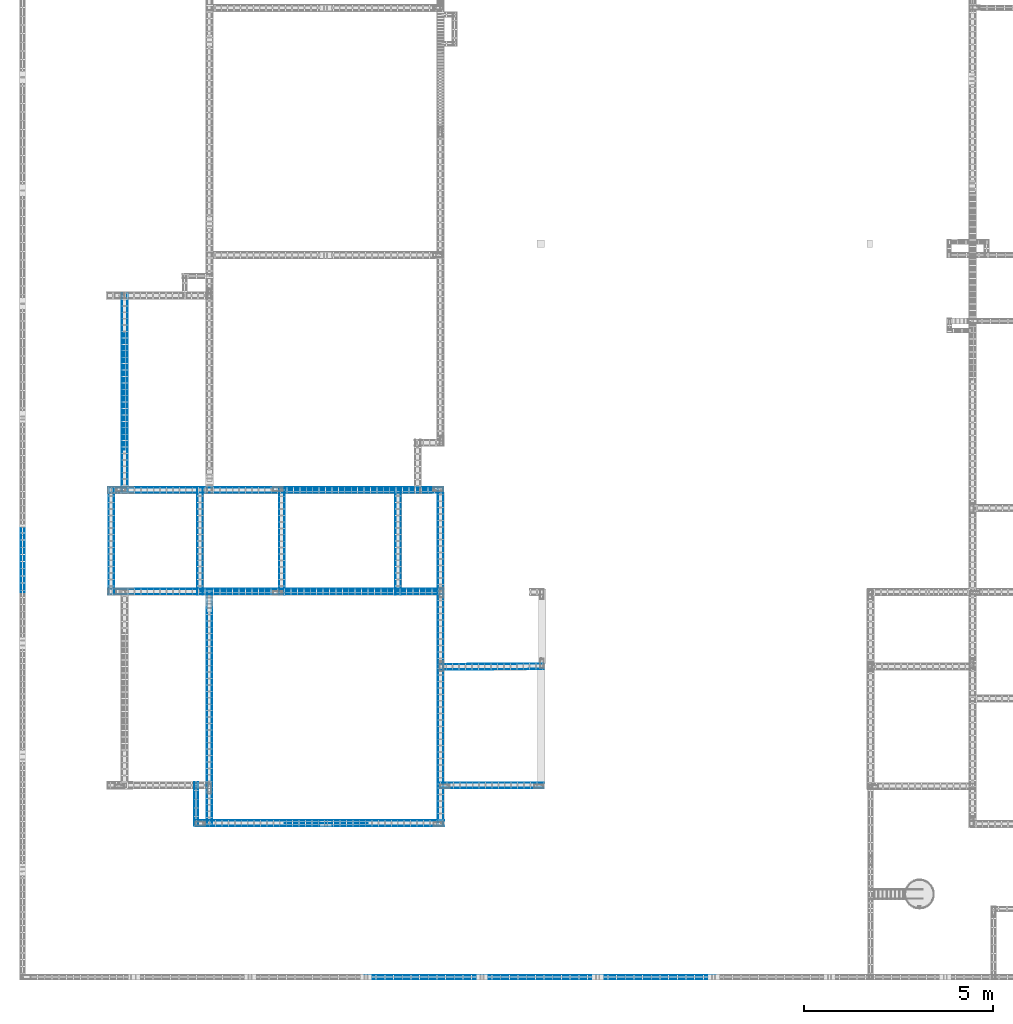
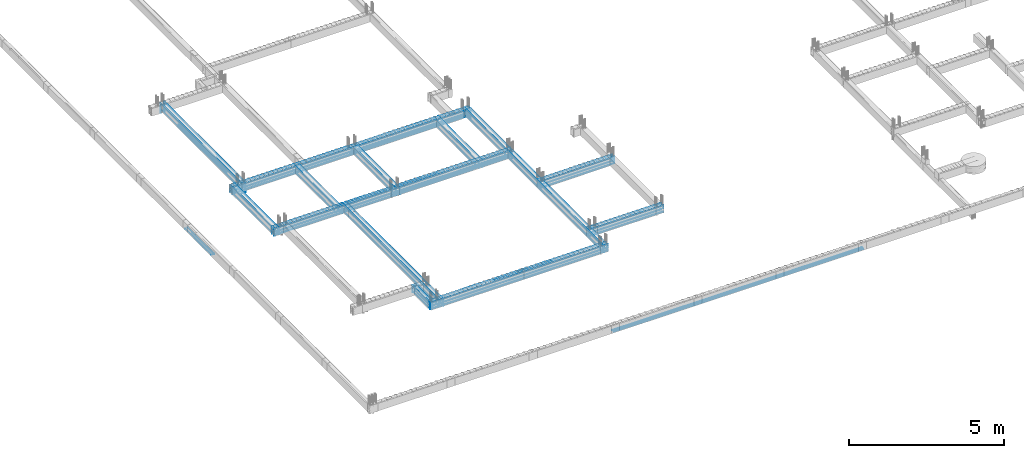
# One storey, part 7 of 150: 61 reinforcing bars.
"""IFC4 building model written with IfcOpenShell, lengths in centimetres."""

from ifc_helpers import new_model, entity, si_unit, derived_unit, frame, origin_with_axes, place, context, project, spatial, element, save


model = new_model("IFC4")

# Units and contexts
model_context = context("Model", 3, precision=1e-05, world=origin_with_axes(), identifier="Body")
ifc_project = project(units=[si_unit("LENGTHUNIT", "METRE", prefix="CENTI"), si_unit("VOLUMEUNIT", "CUBIC_METRE"), si_unit("AREAUNIT", "SQUARE_METRE"), si_unit("POWERUNIT", "WATT"), si_unit("LUMINOUSFLUXUNIT", "LUMEN"), si_unit("ELECTRICCURRENTUNIT", "AMPERE"), si_unit("PRESSUREUNIT", "PASCAL", prefix="KILO"), si_unit("MASSUNIT", "GRAM", prefix="KILO"), si_unit("PLANEANGLEUNIT", "RADIAN"), derived_unit("VOLUMETRICFLOWRATEUNIT", [(si_unit("LENGTHUNIT", "METRE"), 3), (si_unit("TIMEUNIT", "SECOND"), -1)])], contexts=[model_context])

# Site, building, storey
site_placement = place(None, frame((-4000.0, 0.0, 0.0), z_axis=(0.0, 0.0, 1.0), x_axis=(1.0, 0.0, 0.0)))
site = spatial("IfcSite", under=ifc_project, at=site_placement, Name="PADRÃO")
building_placement = place(site_placement, frame((0.0, 0.0, -14.0)))
building = spatial("IfcBuilding", under=site, at=building_placement, Name="CRECHE PRÉ-ESCOLA TIPO 2")
placement = place(building_placement, origin_with_axes())
storey_placement = place(placement, frame((0.0, 0.0, 30.0), z_axis=(0.0, 0.0, 1.0), x_axis=(1.0, 0.0, 0.0)))
storey = spatial("IfcBuildingStorey", under=building, at=storey_placement, Name="VIGA BALDRAME", CompositionType="ELEMENT", Elevation=16.0)

# Reinforcing bars
reinforcing_bar_1_placement = place(storey_placement, frame((901.362929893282, 1300.0, -11.875), z_axis=(0.0, 0.0, 1.0), x_axis=(1.0, 0.0, 0.0)))
element("IfcReinforcingBar", 1, at=reinforcing_bar_1_placement, inside=storey, Name="V136 - Longitudinal inferior", BarLength=0.0, CrossSectionArea=0.000122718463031, NominalDiameter=1.25, PredefinedType="MAIN", context=model_context, shape_type="AdvancedSweptSolid", body=[
    entity("IfcSweptDiskSolid", entity("IfcCompositeCurve", [entity("IfcCompositeCurveSegment", "CONTINUOUS", True, entity("IfcPolyline", [entity("IfcCartesianPoint", [-221.362929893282, 0.0, -15.0]), entity("IfcCartesianPoint", [220.732070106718, 0.0, -15.0])])), entity("IfcCompositeCurveSegment", "CONTINUOUS", True, entity("IfcPolyline", [entity("IfcCartesianPoint", [220.732070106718, 0.0, -15.0]), entity("IfcCartesianPoint", [220.732070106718, 0.0, 0.0])]))], False), 0.625),
])
for number, where, z_axis, x_axis, name in (
    (2, (679.205, 1293.125, -2.475), (0.0, 0.0, 1.0), (1.0, 0.0, 0.0), "V136 - Longitudinal inferior"),
    (3, (679.205, 1306.875, -2.475), (0.0, 0.0, 1.0), (1.0, 0.0, 0.0), "V136 - Longitudinal inferior"),
):
    element("IfcReinforcingBar", number, at=place(storey_placement, frame(where, z_axis=z_axis, x_axis=x_axis)), inside=storey, Name=name, BarLength=0.0, CrossSectionArea=0.000122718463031, NominalDiameter=1.25, PredefinedType="MAIN", context=model_context, shape_type="AdvancedSweptSolid", body=[
        entity("IfcSweptDiskSolid", entity("IfcCompositeCurve", [entity("IfcCompositeCurveSegment", "CONTINUOUS", True, entity("IfcPolyline", [entity("IfcCartesianPoint", [-442.89, 0.0, 0.0]), entity("IfcCartesianPoint", [-442.89, 0.0, -24.4])])), entity("IfcCompositeCurveSegment", "CONTINUOUS", True, entity("IfcPolyline", [entity("IfcCartesianPoint", [-442.89, 0.0, -24.4]), entity("IfcCartesianPoint", [442.89, 0.0, -24.4])])), entity("IfcCompositeCurveSegment", "CONTINUOUS", True, entity("IfcPolyline", [entity("IfcCartesianPoint", [442.89, 0.0, -24.4]), entity("IfcCartesianPoint", [442.89, 0.0, -9.4])]))], False), 0.625),
    ])
for number, where, z_axis, x_axis, name in (
    (4, (679.205, 1306.875, -2.49414021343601), (0.0, 0.0, 1.0), (1.0, 0.0, 0.0), "V136 - Longitudinal superior"),
    (5, (679.205, 1293.125, -2.49414021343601), (0.0, 0.0, 1.0), (1.0, 0.0, 0.0), "V136 - Longitudinal superior"),
):
    element("IfcReinforcingBar", number, at=place(storey_placement, frame(where, z_axis=z_axis, x_axis=x_axis)), inside=storey, Name=name, BarLength=0.0, CrossSectionArea=0.000122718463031, NominalDiameter=1.25, PredefinedType="MAIN", context=model_context, shape_type="AdvancedSweptSolid", body=[
        entity("IfcSweptDiskSolid", entity("IfcCompositeCurve", [entity("IfcCompositeCurveSegment", "CONTINUOUS", True, entity("IfcPolyline", [entity("IfcCartesianPoint", [-442.89, 0.0, -26.630859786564]), entity("IfcCartesianPoint", [-442.89, 0.0, -0.630859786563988])])), entity("IfcCompositeCurveSegment", "CONTINUOUS", True, entity("IfcPolyline", [entity("IfcCartesianPoint", [-442.89, 0.0, -0.630859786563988]), entity("IfcCartesianPoint", [442.89, 0.0, -0.630859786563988])])), entity("IfcCompositeCurveSegment", "CONTINUOUS", True, entity("IfcPolyline", [entity("IfcCartesianPoint", [442.89, 0.0, -0.630859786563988]), entity("IfcCartesianPoint", [442.89, 0.0, -41.194383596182])]))], False), 0.625),
    ])
reinforcing_bar_2_placement = place(storey_placement, frame((901.862929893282, 1031.0, -11.875), z_axis=(0.0, 0.0, 1.0), x_axis=(1.0, 0.0, 0.0)))
element("IfcReinforcingBar", 6, at=reinforcing_bar_2_placement, inside=storey, Name="V140 - Longitudinal inferior", BarLength=0.0, CrossSectionArea=0.000122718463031, NominalDiameter=1.25, PredefinedType="MAIN", context=model_context, shape_type="AdvancedSweptSolid", body=[
    entity("IfcSweptDiskSolid", entity("IfcCompositeCurve", [entity("IfcCompositeCurveSegment", "CONTINUOUS", True, entity("IfcPolyline", [entity("IfcCartesianPoint", [-221.862929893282, 0.0, -15.0]), entity("IfcCartesianPoint", [221.232070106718, 0.0, -15.0])])), entity("IfcCompositeCurveSegment", "CONTINUOUS", True, entity("IfcPolyline", [entity("IfcCartesianPoint", [221.232070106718, 0.0, -15.0]), entity("IfcCartesianPoint", [221.232070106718, 0.0, 0.0])]))], False), 0.625),
])
for number, where, z_axis, x_axis, name in (
    (7, (679.705, 1037.875, -2.475), (0.0, 0.0, 1.0), (1.0, 0.0, 0.0), "V140 - Longitudinal inferior"),
    (8, (679.705, 1024.125, -2.475), (0.0, 0.0, 1.0), (1.0, 0.0, 0.0), "V140 - Longitudinal inferior"),
):
    element("IfcReinforcingBar", number, at=place(storey_placement, frame(where, z_axis=z_axis, x_axis=x_axis)), inside=storey, Name=name, BarLength=0.0, CrossSectionArea=0.000122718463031, NominalDiameter=1.25, PredefinedType="MAIN", context=model_context, shape_type="AdvancedSweptSolid", body=[
        entity("IfcSweptDiskSolid", entity("IfcCompositeCurve", [entity("IfcCompositeCurveSegment", "CONTINUOUS", True, entity("IfcPolyline", [entity("IfcCartesianPoint", [-443.39, 0.0, 0.0]), entity("IfcCartesianPoint", [-443.39, 0.0, -24.4])])), entity("IfcCompositeCurveSegment", "CONTINUOUS", True, entity("IfcPolyline", [entity("IfcCartesianPoint", [-443.39, 0.0, -24.4]), entity("IfcCartesianPoint", [443.39, 0.0, -24.4])])), entity("IfcCompositeCurveSegment", "CONTINUOUS", True, entity("IfcPolyline", [entity("IfcCartesianPoint", [443.39, 0.0, -24.4]), entity("IfcCartesianPoint", [443.39, 0.0, -9.4])]))], False), 0.625),
    ])
reinforcing_bar_3_placement = place(storey_placement, frame((662.5, 1031.0, -2.5), z_axis=(0.0, 0.0, 1.0), x_axis=(1.0, 0.0, 0.0)))
element("IfcReinforcingBar", 9, at=reinforcing_bar_3_placement, inside=storey, Name="V140 - Longitudinal superior", BarLength=0.0, CrossSectionArea=0.000122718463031, NominalDiameter=1.25, PredefinedType="MAIN", context=model_context, shape_type="AdvancedSweptSolid", body=[
    entity("IfcSweptDiskSolid", entity("IfcCompositeCurve", [entity("IfcCompositeCurveSegment", "CONTINUOUS", True, entity("IfcPolyline", [entity("IfcCartesianPoint", [-182.5, 0.0, -0.625]), entity("IfcCartesianPoint", [182.5, 0.0, -0.625])]))], False), 0.625),
])
for number, where, z_axis, x_axis, name in (
    (10, (679.705, 1024.125, -2.49414021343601), (0.0, 0.0, 1.0), (1.0, 0.0, 0.0), "V140 - Longitudinal superior"),
    (11, (679.705, 1037.875, -2.49414021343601), (0.0, 0.0, 1.0), (1.0, 0.0, 0.0), "V140 - Longitudinal superior"),
):
    element("IfcReinforcingBar", number, at=place(storey_placement, frame(where, z_axis=z_axis, x_axis=x_axis)), inside=storey, Name=name, BarLength=0.0, CrossSectionArea=0.000122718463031, NominalDiameter=1.25, PredefinedType="MAIN", context=model_context, shape_type="AdvancedSweptSolid", body=[
        entity("IfcSweptDiskSolid", entity("IfcCompositeCurve", [entity("IfcCompositeCurveSegment", "CONTINUOUS", True, entity("IfcPolyline", [entity("IfcCartesianPoint", [-443.39, 0.0, -26.630859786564]), entity("IfcCartesianPoint", [-443.39, 0.0, -0.630859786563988])])), entity("IfcCompositeCurveSegment", "CONTINUOUS", True, entity("IfcPolyline", [entity("IfcCartesianPoint", [-443.39, 0.0, -0.630859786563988]), entity("IfcCartesianPoint", [443.39, 0.0, -0.630859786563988])])), entity("IfcCompositeCurveSegment", "CONTINUOUS", True, entity("IfcPolyline", [entity("IfcCartesianPoint", [443.39, 0.0, -0.630859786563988]), entity("IfcCartesianPoint", [443.39, 0.0, -30.9031584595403])]))], False), 0.625),
    ])
for number, where, z_axis, x_axis, name in (
    (12, (1251.82167784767, 825.130122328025, -26.7), (0.0, 0.0, 1.0), (1.0, 0.0, 0.0), "V145 - Longitudinal inferior"),
    (13, (1251.73832215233, 839.329877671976, -26.7), (0.0, 0.0, 1.0), (1.0, 0.0, 0.0), "V145 - Longitudinal inferior"),
):
    element("IfcReinforcingBar", number, at=place(storey_placement, frame(where, z_axis=z_axis, x_axis=x_axis)), inside=storey, Name=name, BarLength=0.0, CrossSectionArea=5.0265482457e-05, NominalDiameter=0.8, PredefinedType="MAIN", context=model_context, shape_type="AdvancedSweptSolid", body=[
        entity("IfcSweptDiskSolid", entity("IfcCompositeCurve", [entity("IfcCompositeCurveSegment", "CONTINUOUS", True, entity("IfcPolyline", [entity("IfcCartesianPoint", [-138.060034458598, -0.810442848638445, -0.4]), entity("IfcCartesianPoint", [138.060034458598, 0.810442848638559, -0.4])]))], False), 0.4),
    ])
for number, where, z_axis, x_axis, name in (
    (14, (1251.73832215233, 839.329877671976, -2.49624973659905), (0.0, 0.0, 1.0), (1.0, 0.0, 0.0), "V145 - Longitudinal superior"),
    (15, (1251.82167784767, 825.130122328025, -2.49624973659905), (0.0, 0.0, 1.0), (1.0, 0.0, 0.0), "V145 - Longitudinal superior"),
):
    element("IfcReinforcingBar", number, at=place(storey_placement, frame(where, z_axis=z_axis, x_axis=x_axis)), inside=storey, Name=name, BarLength=0.0, CrossSectionArea=5.0265482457e-05, NominalDiameter=0.8, PredefinedType="MAIN", context=model_context, shape_type="AdvancedSweptSolid", body=[
        entity("IfcSweptDiskSolid", entity("IfcCompositeCurve", [entity("IfcCompositeCurveSegment", "CONTINUOUS", True, entity("IfcPolyline", [entity("IfcCartesianPoint", [-137.660041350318, -0.808094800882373, -24.2941566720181]), entity("IfcCartesianPoint", [-137.660041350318, -0.808094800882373, -0.403750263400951])])), entity("IfcCompositeCurveSegment", "CONTINUOUS", True, entity("IfcPolyline", [entity("IfcCartesianPoint", [-137.660041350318, -0.808094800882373, -0.403750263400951]), entity("IfcCartesianPoint", [137.660041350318, 0.808094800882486, -0.403750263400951])])), entity("IfcCompositeCurveSegment", "CONTINUOUS", True, entity("IfcPolyline", [entity("IfcCartesianPoint", [137.660041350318, 0.808094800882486, -0.403750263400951]), entity("IfcCartesianPoint", [137.660041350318, 0.808094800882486, -24.2941566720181])]))], False), 0.4),
    ])
for number, where, z_axis, x_axis, name in (
    (16, (1252.28, 510.41, -26.7), (0.0, 0.0, 1.0), (1.0, 0.0, 0.0), "V150 - Longitudinal inferior"),
    (17, (1252.28, 524.61, -26.7), (0.0, 0.0, 1.0), (1.0, 0.0, 0.0), "V150 - Longitudinal inferior"),
):
    element("IfcReinforcingBar", number, at=place(storey_placement, frame(where, z_axis=z_axis, x_axis=x_axis)), inside=storey, Name=name, BarLength=0.0, CrossSectionArea=5.0265482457e-05, NominalDiameter=0.8, PredefinedType="MAIN", context=model_context, shape_type="AdvancedSweptSolid", body=[
        entity("IfcSweptDiskSolid", entity("IfcCompositeCurve", [entity("IfcCompositeCurveSegment", "CONTINUOUS", True, entity("IfcPolyline", [entity("IfcCartesianPoint", [-137.56, 0.0, -0.4]), entity("IfcCartesianPoint", [137.56, 0.0, -0.4])]))], False), 0.4),
    ])
for number, where, z_axis, x_axis, name in (
    (18, (1252.28, 510.41, -2.49624973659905), (0.0, 0.0, 1.0), (1.0, 0.0, 0.0), "V150 - Longitudinal superior"),
    (19, (1252.28, 524.61, -2.49624973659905), (0.0, 0.0, 1.0), (1.0, 0.0, 0.0), "V150 - Longitudinal superior"),
):
    element("IfcReinforcingBar", number, at=place(storey_placement, frame(where, z_axis=z_axis, x_axis=x_axis)), inside=storey, Name=name, BarLength=0.0, CrossSectionArea=5.0265482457e-05, NominalDiameter=0.8, PredefinedType="MAIN", context=model_context, shape_type="AdvancedSweptSolid", body=[
        entity("IfcSweptDiskSolid", entity("IfcCompositeCurve", [entity("IfcCompositeCurveSegment", "CONTINUOUS", True, entity("IfcPolyline", [entity("IfcCartesianPoint", [-137.16, 0.0, -10.403750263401]), entity("IfcCartesianPoint", [-137.16, 0.0, -0.403750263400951])])), entity("IfcCompositeCurveSegment", "CONTINUOUS", True, entity("IfcPolyline", [entity("IfcCartesianPoint", [-137.16, 0.0, -0.403750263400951]), entity("IfcCartesianPoint", [137.16, 0.0, -0.403750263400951])])), entity("IfcCompositeCurveSegment", "CONTINUOUS", True, entity("IfcPolyline", [entity("IfcCartesianPoint", [137.16, 0.0, -0.403750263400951]), entity("IfcCartesianPoint", [137.16, 0.0, -10.403750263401])]))], False), 0.4),
    ])
for number, where, z_axis, x_axis, name in (
    (20, (796.075000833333, 424.5, -26.5), (0.0, 0.0, 1.0), (1.0, 0.0, 0.0), "V154 - Longitudinal inferior"),
    (21, (796.075000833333, 410.5, -26.5), (0.0, 0.0, 1.0), (1.0, 0.0, 0.0), "V154 - Longitudinal inferior"),
):
    element("IfcReinforcingBar", number, at=place(storey_placement, frame(where, z_axis=z_axis, x_axis=x_axis)), inside=storey, Name=name, BarLength=0.0, CrossSectionArea=7.853981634e-05, NominalDiameter=1.0, PredefinedType="MAIN", context=model_context, shape_type="AdvancedSweptSolid", body=[
        entity("IfcSweptDiskSolid", entity("IfcCompositeCurve", [entity("IfcCompositeCurveSegment", "CONTINUOUS", True, entity("IfcPolyline", [entity("IfcCartesianPoint", [-329.075000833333, 0.0, -0.5]), entity("IfcCartesianPoint", [329.075000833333, 0.0, -0.5])]))], False), 0.5),
    ])
reinforcing_bar_4_placement = place(storey_placement, frame((813.220000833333, 417.5, -2.5), z_axis=(0.0, 0.0, 1.0), x_axis=(1.0, 0.0, 0.0)))
element("IfcReinforcingBar", 22, at=reinforcing_bar_4_placement, inside=storey, Name="V154 - Longitudinal superior", BarLength=0.0, CrossSectionArea=5.0265482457e-05, NominalDiameter=0.8, PredefinedType="MAIN", context=model_context, shape_type="AdvancedSweptSolid", body=[
    entity("IfcSweptDiskSolid", entity("IfcCompositeCurve", [entity("IfcCompositeCurveSegment", "CONTINUOUS", True, entity("IfcPolyline", [entity("IfcCartesianPoint", [-110.0, 0.0, -0.4]), entity("IfcCartesianPoint", [110.0, 0.0, -0.4])]))], False), 0.4),
])
for number, where, z_axis, x_axis, name in (
    (23, (796.075000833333, 424.6, -2.49624973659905), (0.0, 0.0, 1.0), (1.0, 0.0, 0.0), "V154 - Longitudinal superior"),
    (24, (796.075000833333, 410.4, -2.49624973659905), (0.0, 0.0, 1.0), (1.0, 0.0, 0.0), "V154 - Longitudinal superior"),
):
    element("IfcReinforcingBar", number, at=place(storey_placement, frame(where, z_axis=z_axis, x_axis=x_axis)), inside=storey, Name=name, BarLength=0.0, CrossSectionArea=5.0265482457e-05, NominalDiameter=0.8, PredefinedType="MAIN", context=model_context, shape_type="AdvancedSweptSolid", body=[
        entity("IfcSweptDiskSolid", entity("IfcCompositeCurve", [entity("IfcCompositeCurveSegment", "CONTINUOUS", True, entity("IfcPolyline", [entity("IfcCartesianPoint", [-328.675000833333, 0.0, -10.403750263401]), entity("IfcCartesianPoint", [-328.675000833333, 0.0, -0.403750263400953])])), entity("IfcCompositeCurveSegment", "CONTINUOUS", True, entity("IfcPolyline", [entity("IfcCartesianPoint", [-328.675000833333, 0.0, -0.403750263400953]), entity("IfcCartesianPoint", [328.675000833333, 0.0, -0.403750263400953])])), entity("IfcCompositeCurveSegment", "CONTINUOUS", True, entity("IfcPolyline", [entity("IfcCartesianPoint", [328.675000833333, 0.0, -0.403750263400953]), entity("IfcCartesianPoint", [328.675000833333, 0.0, -10.403750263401])]))], False), 0.4),
    ])
for number, where, z_axis, x_axis, name in (
    (25, (1379.0, 4.9, -26.7), (0.0, 0.0, 1.0), (1.0, 0.0, 0.0), "V158 - Longitudinal inferior"),
    (26, (1379.0, 14.1, -26.7), (0.0, 0.0, 1.0), (1.0, 0.0, 0.0), "V158 - Longitudinal inferior"),
):
    element("IfcReinforcingBar", number, at=place(storey_placement, frame(where, z_axis=z_axis, x_axis=x_axis)), inside=storey, Name=name, BarLength=0.0, CrossSectionArea=5.0265482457e-05, NominalDiameter=0.8, PredefinedType="MAIN", context=model_context, shape_type="AdvancedSweptSolid", body=[
        entity("IfcSweptDiskSolid", entity("IfcCompositeCurve", [entity("IfcCompositeCurveSegment", "CONTINUOUS", True, entity("IfcPolyline", [entity("IfcCartesianPoint", [-465.5, 0.0, -0.4]), entity("IfcCartesianPoint", [465.5, 0.0, -0.4])]))], False), 0.4),
    ])
for number, where, z_axis, x_axis, name in (
    (27, (4.4, 1114.5, -26.7), (0.0, 0.0, 1.0), (1.0, 0.0, 0.0), "V159 - Longitudinal inferior"),
    (28, (13.6, 1114.5, -26.7), (0.0, 0.0, 1.0), (1.0, 0.0, 0.0), "V159 - Longitudinal inferior"),
):
    element("IfcReinforcingBar", number, at=place(storey_placement, frame(where, z_axis=z_axis, x_axis=x_axis)), inside=storey, Name=name, BarLength=0.0, CrossSectionArea=5.0265482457e-05, NominalDiameter=0.8, PredefinedType="MAIN", context=model_context, shape_type="AdvancedSweptSolid", body=[
        entity("IfcSweptDiskSolid", entity("IfcCompositeCurve", [entity("IfcCompositeCurveSegment", "CONTINUOUS", True, entity("IfcPolyline", [entity("IfcCartesianPoint", [0.0, -85.0, -0.4]), entity("IfcCartesianPoint", [0.0, 85.0, -0.4])]))], False), 0.4),
    ])
for number, where, z_axis, x_axis, name in (
    (29, (250.79, 1165.5, -26.7), (0.0, 0.0, 1.0), (1.0, 0.0, 0.0), "V161 - Longitudinal inferior"),
    (30, (236.59, 1165.5, -26.7), (0.0, 0.0, 1.0), (1.0, 0.0, 0.0), "V161 - Longitudinal inferior"),
):
    element("IfcReinforcingBar", number, at=place(storey_placement, frame(where, z_axis=z_axis, x_axis=x_axis)), inside=storey, Name=name, BarLength=0.0, CrossSectionArea=5.0265482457e-05, NominalDiameter=0.8, PredefinedType="MAIN", context=model_context, shape_type="AdvancedSweptSolid", body=[
        entity("IfcSweptDiskSolid", entity("IfcCompositeCurve", [entity("IfcCompositeCurveSegment", "CONTINUOUS", True, entity("IfcPolyline", [entity("IfcCartesianPoint", [0.0, -142.5, -0.4]), entity("IfcCartesianPoint", [0.0, 142.5, -0.4])]))], False), 0.4),
    ])
for number, where, z_axis, x_axis, name in (
    (31, (236.59, 1165.5, -2.49624973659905), (0.0, 0.0, 1.0), (1.0, 0.0, 0.0), "V161 - Longitudinal superior"),
    (32, (250.79, 1165.5, -2.49624973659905), (0.0, 0.0, 1.0), (1.0, 0.0, 0.0), "V161 - Longitudinal superior"),
):
    element("IfcReinforcingBar", number, at=place(storey_placement, frame(where, z_axis=z_axis, x_axis=x_axis)), inside=storey, Name=name, BarLength=0.0, CrossSectionArea=5.0265482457e-05, NominalDiameter=0.8, PredefinedType="MAIN", context=model_context, shape_type="AdvancedSweptSolid", body=[
        entity("IfcSweptDiskSolid", entity("IfcCompositeCurve", [entity("IfcCompositeCurveSegment", "CONTINUOUS", True, entity("IfcPolyline", [entity("IfcCartesianPoint", [0.0, -142.1, -24.2941566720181]), entity("IfcCartesianPoint", [0.0, -142.1, -0.403750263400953])])), entity("IfcCompositeCurveSegment", "CONTINUOUS", True, entity("IfcPolyline", [entity("IfcCartesianPoint", [0.0, -142.1, -0.403750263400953]), entity("IfcCartesianPoint", [0.0, 142.1, -0.403750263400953])])), entity("IfcCompositeCurveSegment", "CONTINUOUS", True, entity("IfcPolyline", [entity("IfcCartesianPoint", [0.0, 142.1, -0.403750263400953]), entity("IfcCartesianPoint", [0.0, 142.1, -24.2941566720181])]))], False), 0.4),
    ])
for number, where, z_axis, x_axis, name in (
    (33, (272.125, 1559.0, -11.875), (0.0, 0.0, 1.0), (1.0, 0.0, 0.0), "V162 - Longitudinal inferior"),
    (34, (285.875, 1559.0, -11.875), (0.0, 0.0, 1.0), (1.0, 0.0, 0.0), "V162 - Longitudinal inferior"),
):
    element("IfcReinforcingBar", number, at=place(storey_placement, frame(where, z_axis=z_axis, x_axis=x_axis)), inside=storey, Name=name, BarLength=0.0, CrossSectionArea=0.000122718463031, NominalDiameter=1.25, PredefinedType="MAIN", context=model_context, shape_type="AdvancedSweptSolid", body=[
        entity("IfcSweptDiskSolid", entity("IfcCompositeCurve", [entity("IfcCompositeCurveSegment", "CONTINUOUS", True, entity("IfcPolyline", [entity("IfcCartesianPoint", [0.0, -261.875, 0.0]), entity("IfcCartesianPoint", [0.0, -261.875, -15.0])])), entity("IfcCompositeCurveSegment", "CONTINUOUS", True, entity("IfcPolyline", [entity("IfcCartesianPoint", [0.0, -261.875, -15.0]), entity("IfcCartesianPoint", [0.0, 261.875, -15.0])])), entity("IfcCompositeCurveSegment", "CONTINUOUS", True, entity("IfcPolyline", [entity("IfcCartesianPoint", [0.0, 261.875, -15.0]), entity("IfcCartesianPoint", [0.0, 261.875, 0.0])]))], False), 0.625),
    ])
reinforcing_bar_5_placement = place(storey_placement, frame((279.0, 1560.75, -26.25), z_axis=(0.0, 0.0, 1.0), x_axis=(1.0, 0.0, 0.0)))
element("IfcReinforcingBar", 35, at=reinforcing_bar_5_placement, inside=storey, Name="V162 - Longitudinal inferior", BarLength=0.0, CrossSectionArea=0.000122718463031, NominalDiameter=1.25, PredefinedType="MAIN", context=model_context, shape_type="AdvancedSweptSolid", body=[
    entity("IfcSweptDiskSolid", entity("IfcCompositeCurve", [entity("IfcCompositeCurveSegment", "CONTINUOUS", True, entity("IfcPolyline", [entity("IfcCartesianPoint", [0.0, -154.25, -0.625]), entity("IfcCartesianPoint", [0.0, 154.25, -0.625])]))], False), 0.625),
])
for number, where, z_axis, x_axis, name in (
    (36, (285.875, 1559.0, -2.49414021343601), (0.0, 0.0, 1.0), (1.0, 0.0, 0.0), "V162 - Longitudinal superior"),
    (37, (272.125, 1559.0, -2.49414021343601), (0.0, 0.0, 1.0), (1.0, 0.0, 0.0), "V162 - Longitudinal superior"),
):
    element("IfcReinforcingBar", number, at=place(storey_placement, frame(where, z_axis=z_axis, x_axis=x_axis)), inside=storey, Name=name, BarLength=0.0, CrossSectionArea=0.000122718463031, NominalDiameter=1.25, PredefinedType="MAIN", context=model_context, shape_type="AdvancedSweptSolid", body=[
        entity("IfcSweptDiskSolid", entity("IfcCompositeCurve", [entity("IfcCompositeCurveSegment", "CONTINUOUS", True, entity("IfcPolyline", [entity("IfcCartesianPoint", [0.0, -261.875, -37.6170199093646]), entity("IfcCartesianPoint", [0.0, -261.875, -0.630859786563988])])), entity("IfcCompositeCurveSegment", "CONTINUOUS", True, entity("IfcPolyline", [entity("IfcCartesianPoint", [0.0, -261.875, -0.630859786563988]), entity("IfcCartesianPoint", [0.0, 261.875, -0.630859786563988])])), entity("IfcCompositeCurveSegment", "CONTINUOUS", True, entity("IfcPolyline", [entity("IfcCartesianPoint", [0.0, 261.875, -0.630859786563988]), entity("IfcCartesianPoint", [0.0, 261.875, -37.797244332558])]))], False), 0.625),
    ])
for number, where, z_axis, x_axis, name in (
    (38, (496.695, 724.25, -11.5851398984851), (0.0, 0.0, 1.0), (1.0, 0.0, 0.0), "V166 - Longitudinal inferior"),
    (39, (510.445, 724.25, -11.5851398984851), (0.0, 0.0, 1.0), (1.0, 0.0, 0.0), "V166 - Longitudinal inferior"),
):
    element("IfcReinforcingBar", number, at=place(storey_placement, frame(where, z_axis=z_axis, x_axis=x_axis)), inside=storey, Name=name, BarLength=0.0, CrossSectionArea=0.000122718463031, NominalDiameter=1.25, PredefinedType="MAIN", context=model_context, shape_type="AdvancedSweptSolid", body=[
        entity("IfcSweptDiskSolid", entity("IfcCompositeCurve", [entity("IfcCompositeCurveSegment", "CONTINUOUS", True, entity("IfcPolyline", [entity("IfcCartesianPoint", [0.0, -314.125, 0.0]), entity("IfcCartesianPoint", [0.0, -314.125, -15.2898601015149])])), entity("IfcCompositeCurveSegment", "CONTINUOUS", True, entity("IfcPolyline", [entity("IfcCartesianPoint", [0.0, -314.125, -15.2898601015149]), entity("IfcCartesianPoint", [0.0, 314.125, -15.2898601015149])])), entity("IfcCompositeCurveSegment", "CONTINUOUS", True, entity("IfcPolyline", [entity("IfcCartesianPoint", [0.0, 314.125, -15.2898601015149]), entity("IfcCartesianPoint", [0.0, 314.125, 0.0])]))], False), 0.625),
    ])
for number, where, z_axis, x_axis, name in (
    (40, (496.695, 724.25, -2.49414021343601), (0.0, 0.0, 1.0), (1.0, 0.0, 0.0), "V166 - Longitudinal superior"),
    (41, (510.445, 724.25, -2.49414021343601), (0.0, 0.0, 1.0), (1.0, 0.0, 0.0), "V166 - Longitudinal superior"),
):
    element("IfcReinforcingBar", number, at=place(storey_placement, frame(where, z_axis=z_axis, x_axis=x_axis)), inside=storey, Name=name, BarLength=0.0, CrossSectionArea=0.000122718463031, NominalDiameter=1.25, PredefinedType="MAIN", context=model_context, shape_type="AdvancedSweptSolid", body=[
        entity("IfcSweptDiskSolid", entity("IfcCompositeCurve", [entity("IfcCompositeCurveSegment", "CONTINUOUS", True, entity("IfcPolyline", [entity("IfcCartesianPoint", [0.0, -314.125, -26.630859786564]), entity("IfcCartesianPoint", [0.0, -314.125, -0.630859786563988])])), entity("IfcCompositeCurveSegment", "CONTINUOUS", True, entity("IfcPolyline", [entity("IfcCartesianPoint", [0.0, -314.125, -0.630859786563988]), entity("IfcCartesianPoint", [0.0, 314.125, -0.630859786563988])])), entity("IfcCompositeCurveSegment", "CONTINUOUS", True, entity("IfcPolyline", [entity("IfcCartesianPoint", [0.0, 314.125, -0.630859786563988]), entity("IfcCartesianPoint", [0.0, 314.125, -26.630859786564])]))], False), 0.625),
    ])
for number, where, z_axis, x_axis, name in (
    (42, (473.09, 468.25, -26.7), (0.0, 0.0, 1.0), (1.0, 0.0, 0.0), "V167 - Longitudinal inferior"),
    (43, (463.89, 468.25, -26.7), (0.0, 0.0, 1.0), (1.0, 0.0, 0.0), "V167 - Longitudinal inferior"),
):
    element("IfcReinforcingBar", number, at=place(storey_placement, frame(where, z_axis=z_axis, x_axis=x_axis)), inside=storey, Name=name, BarLength=0.0, CrossSectionArea=5.0265482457e-05, NominalDiameter=0.8, PredefinedType="MAIN", context=model_context, shape_type="AdvancedSweptSolid", body=[
        entity("IfcSweptDiskSolid", entity("IfcCompositeCurve", [entity("IfcCompositeCurveSegment", "CONTINUOUS", True, entity("IfcPolyline", [entity("IfcCartesianPoint", [0.0, -57.25, -0.4]), entity("IfcCartesianPoint", [0.0, 57.25, -0.4])]))], False), 0.4),
    ])
for number, where, z_axis, x_axis, name in (
    (44, (463.89, 468.25, -2.49624973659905), (0.0, 0.0, 1.0), (1.0, 0.0, 0.0), "V167 - Longitudinal superior"),
    (45, (473.09, 468.25, -2.49624973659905), (0.0, 0.0, 1.0), (1.0, 0.0, 0.0), "V167 - Longitudinal superior"),
):
    element("IfcReinforcingBar", number, at=place(storey_placement, frame(where, z_axis=z_axis, x_axis=x_axis)), inside=storey, Name=name, BarLength=0.0, CrossSectionArea=5.0265482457e-05, NominalDiameter=0.8, PredefinedType="MAIN", context=model_context, shape_type="AdvancedSweptSolid", body=[
        entity("IfcSweptDiskSolid", entity("IfcCompositeCurve", [entity("IfcCompositeCurveSegment", "CONTINUOUS", True, entity("IfcPolyline", [entity("IfcCartesianPoint", [0.0, -56.85, -18.3215550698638]), entity("IfcCartesianPoint", [0.0, -56.85, -0.403750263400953])])), entity("IfcCompositeCurveSegment", "CONTINUOUS", True, entity("IfcPolyline", [entity("IfcCartesianPoint", [0.0, -56.85, -0.403750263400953]), entity("IfcCartesianPoint", [0.0, 56.85, -0.403750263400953])])), entity("IfcCompositeCurveSegment", "CONTINUOUS", True, entity("IfcPolyline", [entity("IfcCartesianPoint", [0.0, 56.85, -0.403750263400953]), entity("IfcCartesianPoint", [0.0, 56.85, -26.403750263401])]))], False), 0.4),
    ])
for number, where, z_axis, x_axis, name in (
    (46, (471.44, 1165.5, -2.5), (0.0, 0.0, 1.0), (1.0, 0.0, 0.0), "V168 - Longitudinal construtiva"),
    (47, (485.94, 1165.5, -2.5), (0.0, 0.0, 1.0), (1.0, 0.0, 0.0), "V168 - Longitudinal construtiva"),
):
    element("IfcReinforcingBar", number, at=place(storey_placement, frame(where, z_axis=z_axis, x_axis=x_axis)), inside=storey, Name=name, BarLength=0.0, CrossSectionArea=1.9634954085e-05, NominalDiameter=0.5, PredefinedType="MAIN", context=model_context, shape_type="AdvancedSweptSolid", body=[
        entity("IfcSweptDiskSolid", entity("IfcCompositeCurve", [entity("IfcCompositeCurveSegment", "CONTINUOUS", True, entity("IfcPolyline", [entity("IfcCartesianPoint", [0.0, -142.5, -0.25]), entity("IfcCartesianPoint", [0.0, 142.5, -0.25])]))], False), 0.25),
    ])
for number, where, z_axis, x_axis, name in (
    (48, (471.69, 1165.5, -26.5), (0.0, 0.0, 1.0), (1.0, 0.0, 0.0), "V168 - Longitudinal inferior"),
    (49, (485.69, 1165.5, -26.5), (0.0, 0.0, 1.0), (1.0, 0.0, 0.0), "V168 - Longitudinal inferior"),
):
    element("IfcReinforcingBar", number, at=place(storey_placement, frame(where, z_axis=z_axis, x_axis=x_axis)), inside=storey, Name=name, BarLength=0.0, CrossSectionArea=7.853981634e-05, NominalDiameter=1.0, PredefinedType="MAIN", context=model_context, shape_type="AdvancedSweptSolid", body=[
        entity("IfcSweptDiskSolid", entity("IfcCompositeCurve", [entity("IfcCompositeCurveSegment", "CONTINUOUS", True, entity("IfcPolyline", [entity("IfcCartesianPoint", [0.0, -142.5, -0.5]), entity("IfcCartesianPoint", [0.0, 142.5, -0.5])]))], False), 0.5),
    ])
for number, where, z_axis, x_axis, name in (
    (50, (688.5, 1165.005, -26.5), (0.0, 0.0, 1.0), (1.0, 0.0, 0.0), "V175 - Longitudinal inferior"),
    (51, (702.5, 1165.005, -26.5), (0.0, 0.0, 1.0), (1.0, 0.0, 0.0), "V175 - Longitudinal inferior"),
):
    element("IfcReinforcingBar", number, at=place(storey_placement, frame(where, z_axis=z_axis, x_axis=x_axis)), inside=storey, Name=name, BarLength=0.0, CrossSectionArea=7.853981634e-05, NominalDiameter=1.0, PredefinedType="MAIN", context=model_context, shape_type="AdvancedSweptSolid", body=[
        entity("IfcSweptDiskSolid", entity("IfcCompositeCurve", [entity("IfcCompositeCurveSegment", "CONTINUOUS", True, entity("IfcPolyline", [entity("IfcCartesianPoint", [0.0, -142.495, -0.5]), entity("IfcCartesianPoint", [0.0, 142.495, -0.5])]))], False), 0.5),
    ])
for number, where, z_axis, x_axis, name in (
    (52, (702.6, 1165.005, -2.49624973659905), (0.0, 0.0, 1.0), (1.0, 0.0, 0.0), "V175 - Longitudinal superior"),
    (53, (688.4, 1165.005, -2.49624973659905), (0.0, 0.0, 1.0), (1.0, 0.0, 0.0), "V175 - Longitudinal superior"),
):
    element("IfcReinforcingBar", number, at=place(storey_placement, frame(where, z_axis=z_axis, x_axis=x_axis)), inside=storey, Name=name, BarLength=0.0, CrossSectionArea=5.0265482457e-05, NominalDiameter=0.8, PredefinedType="MAIN", context=model_context, shape_type="AdvancedSweptSolid", body=[
        entity("IfcSweptDiskSolid", entity("IfcCompositeCurve", [entity("IfcCompositeCurveSegment", "CONTINUOUS", True, entity("IfcPolyline", [entity("IfcCartesianPoint", [0.0, -142.095, -24.2941566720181]), entity("IfcCartesianPoint", [0.0, -142.095, -0.403750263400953])])), entity("IfcCompositeCurveSegment", "CONTINUOUS", True, entity("IfcPolyline", [entity("IfcCartesianPoint", [0.0, -142.095, -0.403750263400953]), entity("IfcCartesianPoint", [0.0, 142.095, -0.403750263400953])])), entity("IfcCompositeCurveSegment", "CONTINUOUS", True, entity("IfcPolyline", [entity("IfcCartesianPoint", [0.0, 142.095, -0.403750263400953]), entity("IfcCartesianPoint", [0.0, 142.095, -24.2941566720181])]))], False), 0.4),
    ])
for number, where, z_axis, x_axis, name in (
    (54, (1010.7, 1165.5, -2.5), (0.0, 0.0, 1.0), (1.0, 0.0, 0.0), "V178 - Longitudinal construtiva"),
    (55, (996.2, 1165.5, -2.5), (0.0, 0.0, 1.0), (1.0, 0.0, 0.0), "V178 - Longitudinal construtiva"),
):
    element("IfcReinforcingBar", number, at=place(storey_placement, frame(where, z_axis=z_axis, x_axis=x_axis)), inside=storey, Name=name, BarLength=0.0, CrossSectionArea=1.9634954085e-05, NominalDiameter=0.5, PredefinedType="MAIN", context=model_context, shape_type="AdvancedSweptSolid", body=[
        entity("IfcSweptDiskSolid", entity("IfcCompositeCurve", [entity("IfcCompositeCurveSegment", "CONTINUOUS", True, entity("IfcPolyline", [entity("IfcCartesianPoint", [0.0, -142.5, -0.25]), entity("IfcCartesianPoint", [0.0, 142.5, -0.25])]))], False), 0.25),
    ])
for number, where, z_axis, x_axis, name in (
    (56, (1010.45, 1165.5, -26.5), (0.0, 0.0, 1.0), (1.0, 0.0, 0.0), "V178 - Longitudinal inferior"),
    (57, (996.45, 1165.5, -26.5), (0.0, 0.0, 1.0), (1.0, 0.0, 0.0), "V178 - Longitudinal inferior"),
):
    element("IfcReinforcingBar", number, at=place(storey_placement, frame(where, z_axis=z_axis, x_axis=x_axis)), inside=storey, Name=name, BarLength=0.0, CrossSectionArea=7.853981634e-05, NominalDiameter=1.0, PredefinedType="MAIN", context=model_context, shape_type="AdvancedSweptSolid", body=[
        entity("IfcSweptDiskSolid", entity("IfcCompositeCurve", [entity("IfcCompositeCurveSegment", "CONTINUOUS", True, entity("IfcPolyline", [entity("IfcCartesianPoint", [0.0, -142.5, -0.5]), entity("IfcCartesianPoint", [0.0, 142.5, -0.5])]))], False), 0.5),
    ])
for number, where, z_axis, x_axis, name in (
    (58, (1123.0, 858.752656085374, -15.0), (0.0, 0.0, 1.0), (1.0, 0.0, 0.0), "V182 - Longitudinal inferior"),
    (59, (1109.0, 858.752656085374, -15.0), (0.0, 0.0, 1.0), (1.0, 0.0, 0.0), "V182 - Longitudinal inferior"),
):
    element("IfcReinforcingBar", number, at=place(storey_placement, frame(where, z_axis=z_axis, x_axis=x_axis)), inside=storey, Name=name, BarLength=0.0, CrossSectionArea=7.853981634e-05, NominalDiameter=1.0, PredefinedType="MAIN", context=model_context, shape_type="AdvancedSweptSolid", body=[
        entity("IfcSweptDiskSolid", entity("IfcCompositeCurve", [entity("IfcCompositeCurveSegment", "CONTINUOUS", True, entity("IfcPolyline", [entity("IfcCartesianPoint", [0.0, -448.242656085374, 0.0]), entity("IfcCartesianPoint", [0.0, -448.242656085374, -12.0])])), entity("IfcCompositeCurveSegment", "CONTINUOUS", True, entity("IfcPolyline", [entity("IfcCartesianPoint", [0.0, -448.242656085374, -12.0]), entity("IfcCartesianPoint", [0.0, 448.747343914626, -12.0])]))], False), 0.5),
    ])
for number, where, z_axis, x_axis, name in (
    (60, (1108.9, 858.755, -2.49624973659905), (0.0, 0.0, 1.0), (1.0, 0.0, 0.0), "V182 - Longitudinal superior"),
    (61, (1123.1, 858.755, -2.49624973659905), (0.0, 0.0, 1.0), (1.0, 0.0, 0.0), "V182 - Longitudinal superior"),
):
    element("IfcReinforcingBar", number, at=place(storey_placement, frame(where, z_axis=z_axis, x_axis=x_axis)), inside=storey, Name=name, BarLength=0.0, CrossSectionArea=5.0265482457e-05, NominalDiameter=0.8, PredefinedType="MAIN", context=model_context, shape_type="AdvancedSweptSolid", body=[
        entity("IfcSweptDiskSolid", entity("IfcCompositeCurve", [entity("IfcCompositeCurveSegment", "CONTINUOUS", True, entity("IfcPolyline", [entity("IfcCartesianPoint", [0.0, -448.345, -24.2941566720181]), entity("IfcCartesianPoint", [0.0, -448.345, -0.403750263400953])])), entity("IfcCompositeCurveSegment", "CONTINUOUS", True, entity("IfcPolyline", [entity("IfcCartesianPoint", [0.0, -448.345, -0.403750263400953]), entity("IfcCartesianPoint", [0.0, 448.345, -0.403750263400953])])), entity("IfcCompositeCurveSegment", "CONTINUOUS", True, entity("IfcPolyline", [entity("IfcCartesianPoint", [0.0, 448.345, -0.403750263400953]), entity("IfcCartesianPoint", [0.0, 448.345, -24.2941566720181])]))], False), 0.4),
    ])

save(model, "model.ifc")
